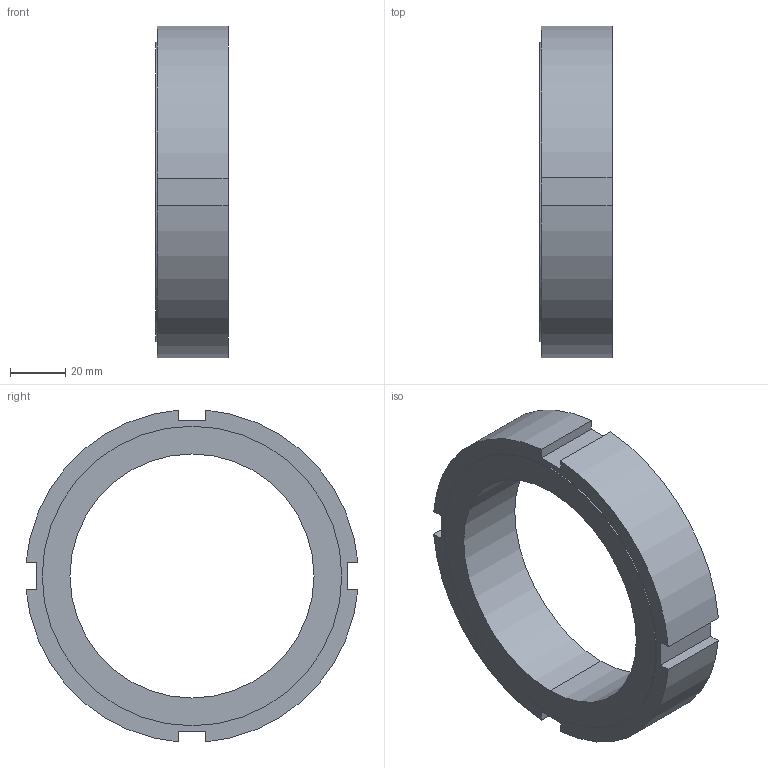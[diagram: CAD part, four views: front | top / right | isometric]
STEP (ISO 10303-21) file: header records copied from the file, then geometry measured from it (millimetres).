
FILE_DESCRIPTION (( 'STEP AP203' ), '1' );
FILE_NAME ('HIA90.STEP', '2002-08-15T11:36:59', ( '.' ), ( '.' ), 'SwSTEP 2.0', 'SolidWorks 2001340', '' );
FILE_SCHEMA (( 'CONFIG_CONTROL_DESIGN' ));
Length unit declared in the file: millimetre
Products named in the file (1): HIA90
Bounding box: 26 x 119.58 x 119.58 mm (x, y, z)
Volume: 130834.3 mm3; surface area: 27883.9 mm2
Topology: 1 solids, 1 shells, 23 faces, 60 edges, 40 vertices
Faces by surface type: plane 15, cylinder 8
Entity records: 791 total; most frequent: CARTESIAN_POINT 124, DIRECTION 124, ORIENTED_EDGE 120, EDGE_CURVE 60, LINE 44, VECTOR 44, VERTEX_POINT 40, AXIS2_PLACEMENT_3D 40
